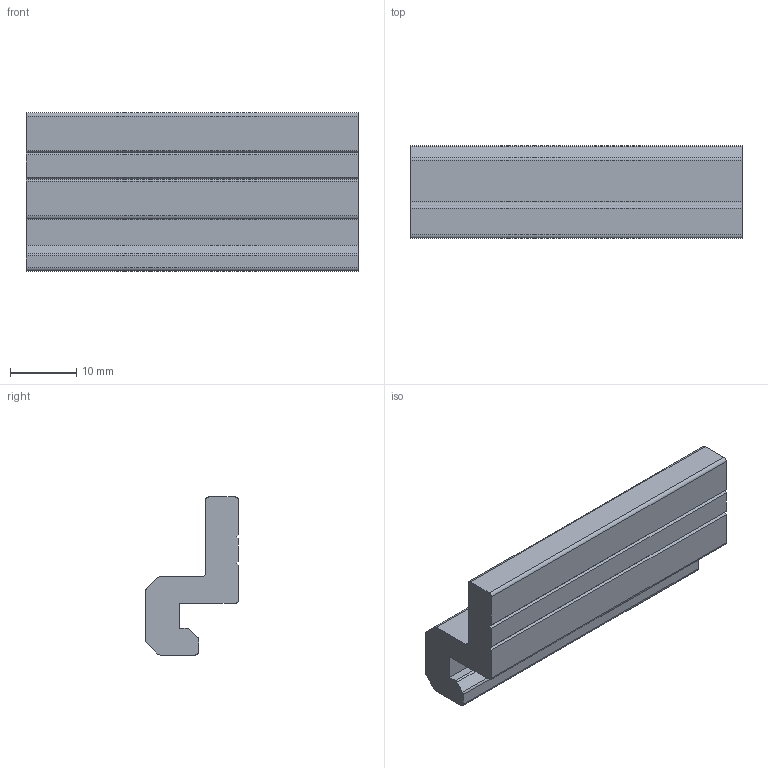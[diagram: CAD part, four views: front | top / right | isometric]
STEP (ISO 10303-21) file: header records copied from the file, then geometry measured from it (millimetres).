
FILE_DESCRIPTION(('STEP AP214'),'1');
FILE_NAME('PS40-.stp','2017-07-25T06:52:29',(' '),(' '),'Spatial InterOp 3D',' ',' ');
FILE_SCHEMA(('automotive_design'));
Length unit declared in the file: millimetre
Products named in the file (1): PS40-
Bounding box: 50 x 14 x 23.8 mm (x, y, z)
Volume: 8094.1 mm3; surface area: 4197.4 mm2
Topology: 1 solids, 1 shells, 32 faces, 90 edges, 60 vertices
Faces by surface type: plane 21, cylinder 11
Entity records: 1308 total; most frequent: CARTESIAN_POINT 183, ORIENTED_EDGE 180, DIRECTION 178, EDGE_CURVE 90, LINE 68, VECTOR 68, VERTEX_POINT 60, AXIS2_PLACEMENT_3D 55
